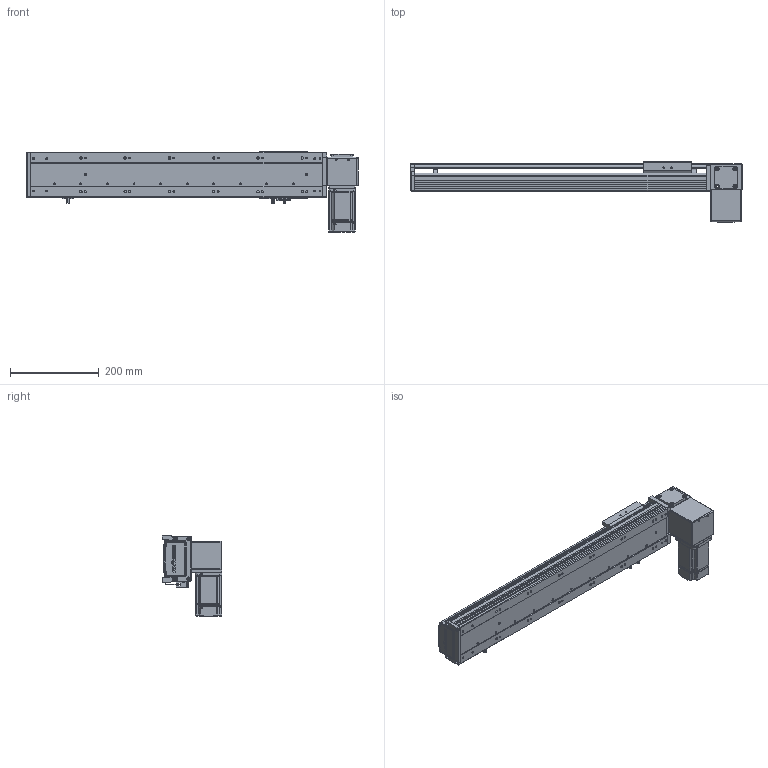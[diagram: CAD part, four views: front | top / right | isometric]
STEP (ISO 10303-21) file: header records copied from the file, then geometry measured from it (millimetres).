
FILE_DESCRIPTION (( 'STEP AP203' ), '1' );
FILE_NAME ('RY100-T-300-DL.SLDASM_450.step', '2024-04-24T01:10:44', ( '盈信电脑' ), ( '东莞市道滘镇水果街19号' ), 'SwSTEP 2.0', 'SolidWorks 2016', '' );
FILE_SCHEMA (( 'CONFIG_CONTROL_DESIGN' ));
Length unit declared in the file: millimetre
Products named in the file (16): RY100-T肮祭謫臏賑輸; RY100-T-300-DL.SLDASM_450; 滅袉蝶18-10; RY100-T粣創揤踡裔; RY100-T翋肮祭謫裔啣2; 覜茼ん672; RY100-T-300-RK倰第菁釱_450; RY100-T翋肮祭謫粣; RY80-T肮祭謫狟殏俋欶; RY100-T-300-RK倰第奻裔_450; RY100-T左右折电机安装板; 1; RY100俋离覜茼え; RY100-T翋肮祭謫裔啣; RY100-T肮祭謫翋盓傅釱; RY100綴裔啣
Assembly tree (18 placements, depth 2):
  RY100-T-300-DL.SLDASM_450
    RY100-T-300-RK倰第菁釱_450
    RY100-T-300-RK倰第奻裔_450
    RY100-T肮祭謫臏賑輸
    RY100綴裔啣
    覜茼ん672  x3
    RY100俋离覜茼え
    RY100-T翋肮祭謫粣
    RY100-T肮祭謫翋盓傅釱
    滅袉蝶18-10  x2
    RY100-T翋肮祭謫裔啣
    1
    RY100-T左右折电机安装板
    RY100-T粣創揤踡裔
    RY100-T翋肮祭謫裔啣2
    RY80-T肮祭謫狟殏俋欶
Bounding box: 750 x 135.5 x 182.5 mm (x, y, z)
Volume: 1763810.3 mm3; surface area: 695255.5 mm2
Topology: 18 solids, 18 shells, 2187 faces, 6042 edges, 3920 vertices
Faces by surface type: plane 1207, cylinder 765, cone 137, bspline 78
Entity records: 70009 total; most frequent: CARTESIAN_POINT 16756, ORIENTED_EDGE 10916, DIRECTION 10422, EDGE_CURVE 5458, VERTEX_POINT 3588, VECTOR 3568, LINE 3568, AXIS2_PLACEMENT_3D 3427
